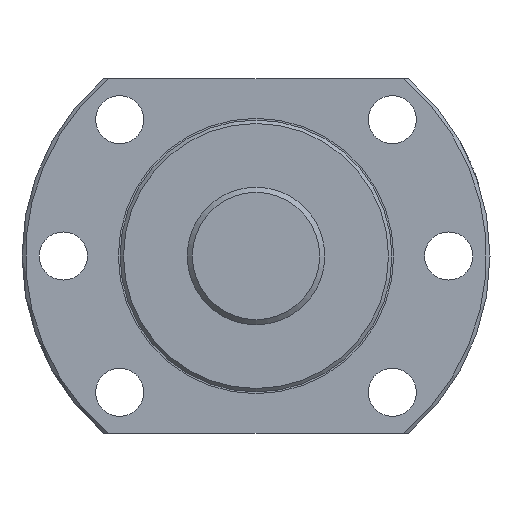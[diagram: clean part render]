
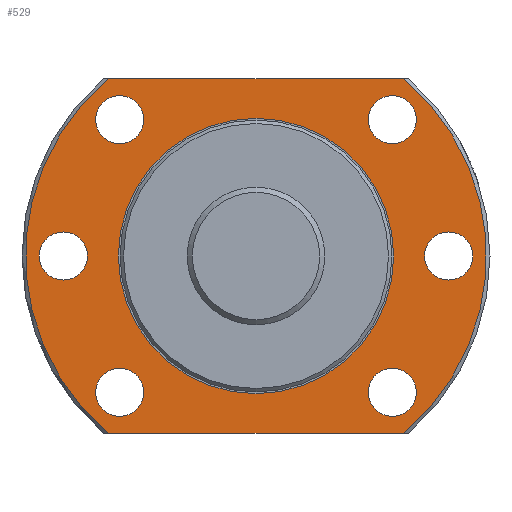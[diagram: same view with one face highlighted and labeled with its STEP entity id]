
A CAD part, left-side view. The second image highlights one B-rep face of the part: STEP entity #529.
In plain terms, the highlighted planar face has unit normal (-1, 0, 0).
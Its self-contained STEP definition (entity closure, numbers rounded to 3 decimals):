
#34=LINE('',#964,#42);
#35=LINE('',#965,#43);
#42=VECTOR('',#767,1000.);
#43=VECTOR('',#768,1000.);
#146=ORIENTED_EDGE('',*,*,#240,.T.);
#147=ORIENTED_EDGE('',*,*,#241,.T.);
#148=ORIENTED_EDGE('',*,*,#242,.F.);
#149=ORIENTED_EDGE('',*,*,#214,.F.);
#150=ORIENTED_EDGE('',*,*,#243,.F.);
#151=ORIENTED_EDGE('',*,*,#238,.F.);
#152=ORIENTED_EDGE('',*,*,#244,.T.);
#153=ORIENTED_EDGE('',*,*,#245,.T.);
#154=ORIENTED_EDGE('',*,*,#246,.T.);
#155=ORIENTED_EDGE('',*,*,#247,.T.);
#156=ORIENTED_EDGE('',*,*,#248,.T.);
#214=EDGE_CURVE('',#269,#268,#312,.T.);
#238=EDGE_CURVE('',#289,#290,#331,.T.);
#240=EDGE_CURVE('',#291,#291,#332,.T.);
#241=EDGE_CURVE('',#292,#292,#333,.F.);
#242=EDGE_CURVE('',#268,#289,#34,.T.);
#243=EDGE_CURVE('',#290,#269,#35,.T.);
#244=EDGE_CURVE('',#293,#293,#334,.T.);
#245=EDGE_CURVE('',#294,#294,#335,.T.);
#246=EDGE_CURVE('',#295,#295,#336,.T.);
#247=EDGE_CURVE('',#296,#296,#337,.T.);
#248=EDGE_CURVE('',#297,#297,#338,.T.);
#268=VERTEX_POINT('',#881);
#269=VERTEX_POINT('',#886);
#289=VERTEX_POINT('',#952);
#290=VERTEX_POINT('',#954);
#291=VERTEX_POINT('',#961);
#292=VERTEX_POINT('',#963);
#293=VERTEX_POINT('',#967);
#294=VERTEX_POINT('',#969);
#295=VERTEX_POINT('',#971);
#296=VERTEX_POINT('',#973);
#297=VERTEX_POINT('',#975);
#312=CIRCLE('',#589,67.);
#331=CIRCLE('',#621,67.);
#332=CIRCLE('',#623,40.);
#333=CIRCLE('',#624,7.);
#334=CIRCLE('',#625,7.);
#335=CIRCLE('',#626,7.);
#336=CIRCLE('',#627,7.);
#337=CIRCLE('',#628,7.);
#338=CIRCLE('',#629,7.);
#386=EDGE_LOOP('',(#146));
#387=EDGE_LOOP('',(#147));
#388=EDGE_LOOP('',(#148,#149,#150,#151));
#389=EDGE_LOOP('',(#152));
#390=EDGE_LOOP('',(#153));
#391=EDGE_LOOP('',(#154));
#392=EDGE_LOOP('',(#155));
#393=EDGE_LOOP('',(#156));
#462=FACE_BOUND('',#386,.T.);
#463=FACE_BOUND('',#387,.T.);
#464=FACE_BOUND('',#388,.T.);
#465=FACE_BOUND('',#389,.T.);
#466=FACE_BOUND('',#390,.T.);
#467=FACE_BOUND('',#391,.T.);
#468=FACE_BOUND('',#392,.T.);
#469=FACE_BOUND('',#393,.T.);
#503=PLANE('',#622);
#529=ADVANCED_FACE('',(#462,#463,#464,#465,#466,#467,#468,#469),#503,.T.);
#589=AXIS2_PLACEMENT_3D('',#887,#693,#694);
#621=AXIS2_PLACEMENT_3D('',#953,#759,#760);
#622=AXIS2_PLACEMENT_3D('',#959,#761,#762);
#623=AXIS2_PLACEMENT_3D('',#960,#763,#764);
#624=AXIS2_PLACEMENT_3D('',#962,#765,#766);
#625=AXIS2_PLACEMENT_3D('',#966,#769,#770);
#626=AXIS2_PLACEMENT_3D('',#968,#771,#772);
#627=AXIS2_PLACEMENT_3D('',#970,#773,#774);
#628=AXIS2_PLACEMENT_3D('',#972,#775,#776);
#629=AXIS2_PLACEMENT_3D('',#974,#777,#778);
#693=DIRECTION('',(1.,0.,0.));
#694=DIRECTION('',(0.,0.,-1.));
#759=DIRECTION('',(1.,0.,0.));
#760=DIRECTION('',(0.,0.,-1.));
#761=DIRECTION('',(-1.,0.,0.));
#762=DIRECTION('',(0.,0.,1.));
#763=DIRECTION('',(1.,0.,0.));
#764=DIRECTION('',(0.,0.,-1.));
#765=DIRECTION('',(-1.,0.,0.));
#766=DIRECTION('',(0.,0.,1.));
#767=DIRECTION('',(0.,1.,0.));
#768=DIRECTION('',(0.,-1.,0.));
#769=DIRECTION('',(1.,0.,0.));
#770=DIRECTION('',(0.,0.,-1.));
#771=DIRECTION('',(1.,0.,0.));
#772=DIRECTION('',(0.,0.,-1.));
#773=DIRECTION('',(1.,0.,0.));
#774=DIRECTION('',(0.,0.,-1.));
#775=DIRECTION('',(1.,0.,0.));
#776=DIRECTION('',(0.,0.,-1.));
#777=DIRECTION('',(1.,0.,0.));
#778=DIRECTION('',(0.,0.,-1.));
#881=CARTESIAN_POINT('',(11.,-42.857,-51.5));
#886=CARTESIAN_POINT('',(11.,-42.857,51.5));
#887=CARTESIAN_POINT('',(11.,0.,0.));
#952=CARTESIAN_POINT('',(11.,42.857,-51.5));
#953=CARTESIAN_POINT('',(11.,0.,0.));
#954=CARTESIAN_POINT('',(11.,42.857,51.5));
#959=CARTESIAN_POINT('',(11.,67.,0.));
#960=CARTESIAN_POINT('',(11.,0.,0.));
#961=CARTESIAN_POINT('',(11.,0.,-40.));
#962=CARTESIAN_POINT('',(11.,56.,0.));
#963=CARTESIAN_POINT('',(11.,56.,7.));
#964=CARTESIAN_POINT('',(11.,67.,-51.5));
#965=CARTESIAN_POINT('',(11.,67.,51.5));
#966=CARTESIAN_POINT('',(11.,39.598,-39.598));
#967=CARTESIAN_POINT('',(11.,39.598,-46.598));
#968=CARTESIAN_POINT('',(11.,-39.598,-39.598));
#969=CARTESIAN_POINT('',(11.,-39.598,-46.598));
#970=CARTESIAN_POINT('',(11.,-56.,0.));
#971=CARTESIAN_POINT('',(11.,-56.,-7.));
#972=CARTESIAN_POINT('',(11.,-39.598,39.598));
#973=CARTESIAN_POINT('',(11.,-39.598,32.598));
#974=CARTESIAN_POINT('',(11.,39.598,39.598));
#975=CARTESIAN_POINT('',(11.,39.598,32.598));
